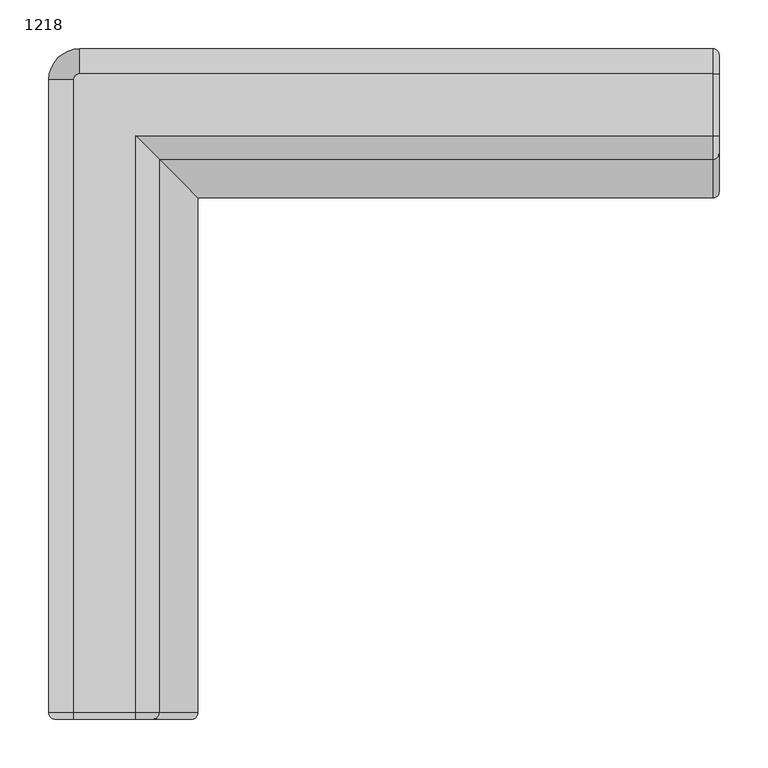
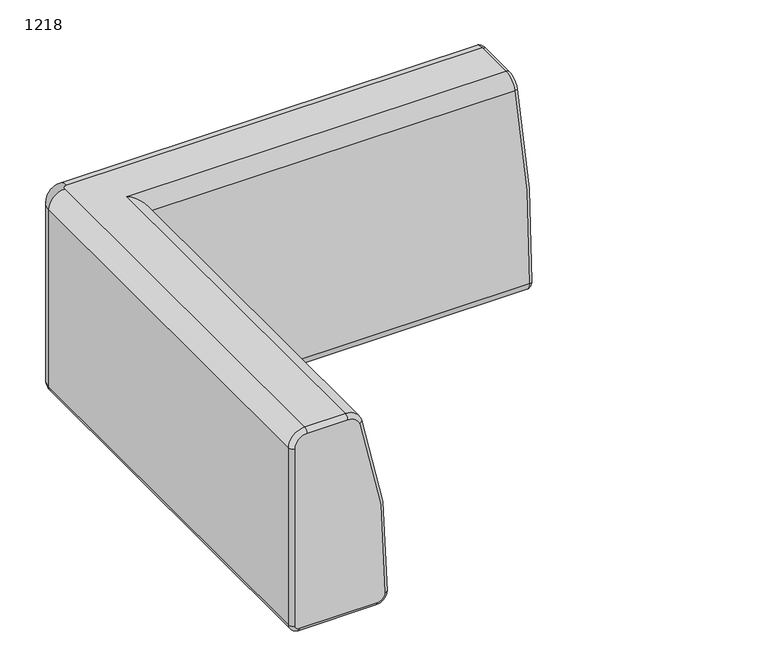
"""IFC4 building model written with IfcOpenShell, lengths in millimetres: furniture geometry, Laguna-Modular-Corner_Unit-ERG : 1218."""

from ifc_helpers import new_model, si_unit, point, frame, origin, place, context, project, spatial, circle_curve, ellipse_curve, trimmed, source, transform, mapped, element, save
from ifc_brep_helpers import plane_surface, cylinder_surface, revolved_surface, advanced_brep


def furniture_1218_6a8e717b(model_context):
    return source(origin(), model_context, "Body", "AdvancedBrep", [
        advanced_brep(
        [(-4516.651337, 548.3558502, 450.2858038), (-4555.9391458, 548.3558502, 742.4437381), (-4574.0706995, 548.3558502, 755.65), (-4637.3421763, 548.3558502, 755.65), (-4656.3921763, 548.3558502, 736.6), (-4656.3921763, 548.3558502, 444.5), (-4650.0421763, 548.3558502, 438.15), (-4529.3387986, 548.3558502, 438.15), (-4510.3076062, 554.7058502, 450.0037057), (-4549.8952947, 554.7058502, 744.3916508), (-4574.0706991, 554.7058502, 762.0), (-4637.3421763, 554.7058502, 762.0), (-4662.7421763, 554.7058502, 736.6), (-4662.7421763, 554.7058502, 444.5), (-4650.0421763, 554.7058502, 431.8), (-4529.3387986, 554.7058502, 431.8), (-4549.8952947, 1121.3089686, 744.3916508), (-4574.0706991, 1145.484373, 762.0), (-3983.2921763, 1145.484373, 762.0), (-3983.2921763, 1208.7558502, 762.0), (-4630.9921763, 1208.7558502, 762.0), (-4637.3421763, 1202.4058502, 762.0), (-4662.7421763, 1202.4058502, 736.6), (-4662.7421763, 1202.4058502, 444.5), (-4510.3076062, 1081.72128, 450.0037057), (-3983.2921763, 1121.3089686, 744.3916508), (-3983.2921763, 1234.1558502, 736.6), (-4630.9921763, 1234.1558502, 736.6), (-3983.2921763, 1234.1558502, 444.5000164), (-4630.9921763, 1234.1558502, 444.5), (-3983.2921763, 1081.72128, 450.0037057), (-4650.0421763, 1202.4058502, 431.8), (-3983.2921763, 1100.7524725, 431.8), (-4529.3387986, 1100.7524725, 431.8), (-4630.9921763, 1221.4558502, 431.8), (-3983.2921763, 1221.4558502, 431.8), (-3976.9421763, 1227.8058502, 736.6), (-3976.9421763, 1208.7558502, 755.65), (-3976.9421763, 1145.484373, 755.65), (-3976.9421763, 1127.3528197, 742.4437381), (-3976.9421763, 1088.0650109, 450.2858038), (-3976.9421763, 1100.7524725, 438.15), (-3976.9421763, 1221.4558502, 438.15), (-3976.9421763, 1227.8058502, 444.5)],
        [
            (0, 1, circle_curve(frame((-5347.7555119, 548.3558502, 487.2440105), z_axis=(0.0, -1.0, 0.0), x_axis=(0.999012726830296, 0.0, -0.044424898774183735)), 831.9255126)),
            (1, 2, circle_curve(frame((-4574.0706991, 548.3558502, 736.6), z_axis=(0.0, -1.0, 0.0), x_axis=(0.9517875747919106, 0.0, 0.30675790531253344)), 19.05)),
            (2, 3),
            (3, 4, circle_curve(frame((-4637.3421763, 548.3558502, 736.6), z_axis=(0.0, -1.0, 0.0), x_axis=(0.0, 0.0, 1.0)), 19.05)),
            (4, 5),
            (5, 6, circle_curve(frame((-4650.0421763, 548.3558502, 444.5), z_axis=(0.0, -1.0, 0.0), x_axis=(-1.0, 0.0, 0.0)), 6.35)),
            (6, 7),
            (7, 0, circle_curve(frame((-4529.3387986, 548.3558502, 450.85), z_axis=(0.0, -1.0, 0.0), x_axis=(0.0, 0.0, -1.0)), 12.7)),
            (0, 8, circle_curve(frame((-4516.651337, 554.7058502, 450.2858038), z_axis=(0.04442489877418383, 0.0, 0.999012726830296), x_axis=(-0.999012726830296, 0.0, 0.04442489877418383)), 6.35)),
            (8, 9, circle_curve(frame((-5347.7555119, 554.7058502, 487.2440105), z_axis=(0.0, -1.0, 0.0), x_axis=(0.999012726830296, 0.0, -0.044424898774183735)), 838.2755126)),
            (9, 1, circle_curve(frame((-4555.9391458, 554.7058502, 742.4437381), z_axis=(0.30675790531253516, 0.0, -0.9517875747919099), x_axis=(-0.9517875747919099, 0.0, -0.30675790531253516)), 6.35)),
            (9, 10, circle_curve(frame((-4574.0706991, 554.7058502, 736.6), z_axis=(0.0, -1.0, 0.0), x_axis=(0.9517875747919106, 0.0, 0.30675790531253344)), 25.4)),
            (10, 2, circle_curve(frame((-4574.0706991, 554.7058502, 755.65), z_axis=(1.0, 0.0, 0.0), x_axis=(0.0, 0.0, -1.0)), 6.35)),
            (10, 11),
            (11, 3, circle_curve(frame((-4637.3421763, 554.7058502, 755.65), z_axis=(1.0, 0.0, 0.0), x_axis=(0.0, 0.0, -1.0)), 6.35)),
            (11, 12, circle_curve(frame((-4637.3421763, 554.7058502, 736.6), z_axis=(0.0, -1.0, 0.0), x_axis=(0.0, 0.0, 1.0)), 25.4)),
            (12, 4, circle_curve(frame((-4656.3921763, 554.7058502, 736.6), z_axis=(0.0, 0.0, 1.0), x_axis=(1.0, 0.0, 0.0)), 6.35)),
            (12, 13),
            (13, 5, circle_curve(frame((-4656.3921763, 554.7058502, 444.5), z_axis=(0.0, 0.0, 1.0), x_axis=(1.0, 0.0, 0.0)), 6.35)),
            (13, 14, circle_curve(frame((-4650.0421763, 554.7058502, 444.5), z_axis=(0.0, -1.0, 0.0), x_axis=(-1.0, 0.0, 0.0)), 12.7)),
            (14, 6, circle_curve(frame((-4650.0421763, 554.7058502, 438.15), z_axis=(-1.0, 0.0, 0.0), x_axis=(0.0, 0.0, 1.0)), 6.35)),
            (14, 15),
            (15, 7, circle_curve(frame((-4529.3387986, 554.7058502, 438.15), z_axis=(-1.0, 0.0, 0.0), x_axis=(0.0, 0.0, 1.0)), 6.35)),
            (15, 8, circle_curve(frame((-4529.3387986, 554.7058502, 450.85), z_axis=(0.0, -1.0, 0.0), x_axis=(0.0, 0.0, -1.0)), 19.05)),
            (9, 16),
            (16, 17, ellipse_curve(frame((-4574.0706991, 1145.484373, 736.6), z_axis=(-0.7071067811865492, -0.7071067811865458, 0.0), x_axis=(0.7071067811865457, -0.7071067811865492, 0.0)), 35.9210245, 25.4)),
            (17, 10),
            (17, 18),
            (18, 19),
            (19, 20),
            (20, 21, circle_curve(frame((-4630.9921763, 1202.4058502, 762.0), z_axis=(0.0, 0.0, 1.0), x_axis=(-1.0, 0.0, 0.0)), 6.35)),
            (21, 11),
            (21, 22, circle_curve(frame((-4637.3421763, 1202.4058502, 736.6), z_axis=(0.0, -1.0, 0.0), x_axis=(-1.0, 0.0, 0.0)), 25.4)),
            (22, 12),
            (22, 23),
            (23, 13),
            (8, 24),
            (24, 16, ellipse_curve(frame((-5347.7555119, 1919.1691857, 487.2440105), z_axis=(-0.7071067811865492, -0.7071067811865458, 0.0), x_axis=(0.7071067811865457, -0.7071067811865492, 0.0)), 1185.5005989, 838.2755126)),
            (16, 25),
            (25, 18, circle_curve(frame((-3983.2921763, 1145.484373, 736.6), z_axis=(-1.0, 0.0, 0.0), x_axis=(0.0, 1.0, 0.0)), 25.4)),
            (19, 26, circle_curve(frame((-3983.2921763, 1208.7558502, 736.6), z_axis=(-1.0, 0.0, 0.0), x_axis=(0.0, 1.0, 0.0)), 25.4)),
            (26, 27),
            (27, 20, circle_curve(frame((-4630.9921763, 1208.7558502, 736.6), z_axis=(1.0, 0.0, 0.0), x_axis=(0.0, 1.0, 0.0)), 25.4)),
            (26, 28),
            (28, 29),
            (29, 27),
            (24, 30),
            (30, 25, circle_curve(frame((-3983.2921763, 1919.1691857, 487.2440105), z_axis=(-1.0, 0.0, 0.0), x_axis=(0.0, 1.0, 0.0)), 838.2755126)),
            (23, 31, circle_curve(frame((-4650.0421763, 1202.4058502, 444.5), z_axis=(0.0, -1.0, 0.0), x_axis=(-1.0, 0.0, 0.0)), 12.7)),
            (31, 14),
            (32, 33),
            (33, 15),
            (31, 34, circle_curve(frame((-4630.9921763, 1202.4058502, 431.8), z_axis=(0.0, 0.0, -1.0), x_axis=(-1.0, 0.0, 0.0)), 19.05)),
            (34, 35),
            (35, 32),
            (33, 24, ellipse_curve(frame((-4529.3387986, 1100.7524725, 450.85), z_axis=(-0.7071067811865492, -0.7071067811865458, 0.0), x_axis=(0.7071067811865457, -0.7071067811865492, 0.0)), 26.9407684, 19.05)),
            (28, 35, circle_curve(frame((-3983.2921763, 1221.4558502, 444.5), z_axis=(-1.0, 0.0, 0.0), x_axis=(0.0, 1.0, 0.0)), 12.7)),
            (34, 29, circle_curve(frame((-4630.9921763, 1221.4558502, 444.5), z_axis=(1.0, 0.0, 0.0), x_axis=(0.0, 1.0, 0.0)), 12.7)),
            (32, 30, circle_curve(frame((-3983.2921763, 1100.7524725, 450.85), z_axis=(-1.0, 0.0, 0.0), x_axis=(0.0, 1.0, 0.0)), 19.05)),
            (36, 26, circle_curve(frame((-3983.2921763, 1227.8058502, 736.6), z_axis=(0.0, 0.0, 1.0), x_axis=(0.0, -1.0, 0.0)), 6.35)),
            (19, 37, circle_curve(frame((-3983.2921763, 1208.7558502, 755.65), z_axis=(0.0, 1.0, 0.0), x_axis=(0.0, 0.0, -1.0)), 6.35)),
            (37, 36, circle_curve(frame((-3976.9421763, 1208.7558502, 736.6), z_axis=(-1.0, 0.0, 0.0), x_axis=(0.0, 1.0, 0.0)), 19.05)),
            (18, 38, circle_curve(frame((-3983.2921763, 1145.484373, 755.65), z_axis=(0.0, 1.0, 0.0), x_axis=(0.0, 0.0, -1.0)), 6.35)),
            (38, 37),
            (25, 39, circle_curve(frame((-3983.2921763, 1127.3528197, 742.4437381), z_axis=(0.0, 0.3067579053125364, 0.9517875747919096), x_axis=(0.0, 0.9517875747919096, -0.3067579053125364)), 6.35)),
            (39, 38, circle_curve(frame((-3976.9421763, 1145.484373, 736.6), z_axis=(-1.0, 0.0, 0.0), x_axis=(0.0, 0.0, 1.0)), 19.05)),
            (30, 40, circle_curve(frame((-3983.2921763, 1088.0650109, 450.2858038), z_axis=(0.0, -0.04442489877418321, 0.999012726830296), x_axis=(0.0, 0.999012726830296, 0.04442489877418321)), 6.35)),
            (40, 39, circle_curve(frame((-3976.9421763, 1919.1691857, 487.2440105), z_axis=(-1.0, 0.0, 0.0), x_axis=(0.0, -0.9517875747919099, 0.3067579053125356)), 831.9255126)),
            (32, 41, circle_curve(frame((-3983.2921763, 1100.7524725, 438.15), z_axis=(0.0, -1.0, 0.0), x_axis=(0.0, 0.0, 1.0)), 6.35)),
            (41, 40, circle_curve(frame((-3976.9421763, 1100.7524725, 450.85), z_axis=(-1.0, 0.0, 0.0), x_axis=(0.0, -0.9990127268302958, -0.0444248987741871)), 12.7)),
            (35, 42, circle_curve(frame((-3983.2921763, 1221.4558502, 438.15), z_axis=(0.0, -1.0, 0.0), x_axis=(0.0, 0.0, 1.0)), 6.35)),
            (42, 41),
            (28, 43, circle_curve(frame((-3983.2921763, 1227.8058502, 444.5), z_axis=(0.0, -1.285329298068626e-12, -1.0), x_axis=(0.0, -1.0, 1.285329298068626e-12)), 6.35)),
            (43, 42, circle_curve(frame((-3976.9421763, 1221.4558502, 444.5), z_axis=(-1.0, 0.0, 0.0), x_axis=(0.0, 0.0, -1.0)), 6.35)),
            (36, 43),
            (27, 22, circle_curve(frame((-4630.9921763, 1202.4058502, 736.6), z_axis=(0.0, 0.0, 1.0), x_axis=(-1.0, 0.0, 0.0)), 31.75)),
            (23, 29, circle_curve(frame((-4630.9921763, 1202.4058502, 444.5), z_axis=(0.0, 0.0, -1.0), x_axis=(-1.0, 0.0, 0.0)), 31.75)),
        ],
        [
            plane_surface(frame((-4637.3421763, 548.3558502, 755.65), z_axis=(0.0, -1.0, 0.0), x_axis=(-1.0, 0.0, 0.0))),
            revolved_surface(trimmed(ellipse_curve(frame((-4516.651337, 554.7058502, 450.2858038), z_axis=(-0.04442489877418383, 0.0, -0.999012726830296), x_axis=(-0.999012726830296, 0.0, 0.04442489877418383)), 6.35, 6.35), [point((-4510.3076062, 554.7058502, 450.0037057))], [point((-4516.651337, 548.3558502, 450.2858038))], True, "CARTESIAN"), (-5347.7555119, 554.7058502, 487.2440105), (0.0, -1.0, 0.0)),
            revolved_surface(trimmed(ellipse_curve(frame((-4555.9391458, 554.7058502, 742.4437381), z_axis=(0.30675790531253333, 0.0, -0.9517875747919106), x_axis=(-0.9517875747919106, 0.0, -0.30675790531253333)), 6.35, 6.35), [point((-4549.8952947, 554.7058502, 744.3916508))], [point((-4555.9391458, 548.3558502, 742.4437381))], True, "CARTESIAN"), (-4574.0706991, 554.7058502, 736.6), (0.0, -1.0, 0.0)),
            cylinder_surface(frame((-4574.0706991, 554.7058502, 755.65), z_axis=(1.0, 0.0, 0.0), x_axis=(0.0, 0.0, -1.0)), 6.35),
            revolved_surface(trimmed(ellipse_curve(frame((-4637.3421763, 554.7058502, 755.65), z_axis=(1.0, 0.0, 0.0), x_axis=(0.0, 0.0, -1.0)), 6.35, 6.35), [point((-4637.3421763, 554.7058502, 762.0))], [point((-4637.3421763, 548.3558502, 755.65))], True, "CARTESIAN"), (-4637.3421763, 554.7058502, 736.6), (0.0, -1.0, 0.0)),
            cylinder_surface(frame((-4656.3921763, 554.7058502, 736.6), z_axis=(0.0, 0.0, 1.0), x_axis=(1.0, 0.0, 0.0)), 6.35),
            revolved_surface(trimmed(ellipse_curve(frame((-4656.3921763, 554.7058502, 444.5), z_axis=(0.0, 0.0, 1.0), x_axis=(1.0, 0.0, 0.0)), 6.35, 6.35), [point((-4662.7421763, 554.7058502, 444.5))], [point((-4656.3921763, 548.3558502, 444.5))], True, "CARTESIAN"), (-4650.0421763, 554.7058502, 444.5), (0.0, -1.0, 0.0)),
            cylinder_surface(frame((-4650.0421763, 554.7058502, 438.15), z_axis=(-1.0, 0.0, 0.0), x_axis=(0.0, 0.0, 1.0)), 6.35),
            revolved_surface(trimmed(ellipse_curve(frame((-4529.3387986, 554.7058502, 438.15), z_axis=(-1.0, 0.0, 0.0), x_axis=(0.0, 0.0, 1.0)), 6.35, 6.35), [point((-4529.3387986, 554.7058502, 431.8))], [point((-4529.3387986, 548.3558502, 438.15))], True, "CARTESIAN"), (-4529.3387986, 554.7058502, 450.85), (0.0, -1.0, 0.0)),
            cylinder_surface(frame((-4574.0706991, 554.7058502, 736.6), z_axis=(0.0, -1.0, 0.0), x_axis=(-1.0, 0.0, 0.0)), 25.4),
            plane_surface(frame((-4574.0706991, 554.7058502, 762.0), z_axis=(0.0, 0.0, 1.0), x_axis=(0.0, 1.0, 0.0))),
            cylinder_surface(frame((-4637.3421763, 554.7058502, 736.6), z_axis=(0.0, -1.0, 0.0), x_axis=(-1.0, 0.0, 0.0)), 25.4),
            plane_surface(frame((-4662.7421763, 554.7058502, 736.6), z_axis=(-1.0, 0.0, 0.0), x_axis=(0.0, 1.0, 0.0))),
            cylinder_surface(frame((-5347.7555119, 554.7058502, 487.2440105), z_axis=(0.0, -1.0, 0.0), x_axis=(-1.0, 0.0, 0.0)), 838.2755126),
            cylinder_surface(frame((-4662.7421763, 1145.484373, 736.6), z_axis=(-1.0, 0.0, 0.0), x_axis=(0.0, 1.0, 0.0)), 25.4),
            cylinder_surface(frame((-4662.7421763, 1208.7558502, 736.6), z_axis=(-1.0, 0.0, 0.0), x_axis=(0.0, 1.0, 0.0)), 25.4),
            plane_surface(frame((-4662.7421763, 1234.1558502, 736.6), z_axis=(0.0, 1.0, 0.0), x_axis=(1.0, 0.0, 0.0))),
            cylinder_surface(frame((-4662.7421763, 1919.1691857, 487.2440105), z_axis=(-1.0, 0.0, 0.0), x_axis=(0.0, 1.0, 0.0)), 838.2755126),
            cylinder_surface(frame((-4650.0421763, 554.7058502, 444.5), z_axis=(0.0, -1.0, 0.0), x_axis=(-1.0, 0.0, 0.0)), 12.7),
            plane_surface(frame((-4650.0421763, 554.7058502, 431.8), z_axis=(0.0, 0.0, -1.0), x_axis=(0.0, 1.0, 0.0))),
            cylinder_surface(frame((-4529.3387986, 554.7058502, 450.85), z_axis=(0.0, -1.0, 0.0), x_axis=(-1.0, 0.0, 0.0)), 19.05),
            cylinder_surface(frame((-4662.7421763, 1221.4558502, 444.5), z_axis=(-1.0, 0.0, 0.0), x_axis=(0.0, 1.0, 0.0)), 12.7),
            cylinder_surface(frame((-4662.7421763, 1100.7524725, 450.85), z_axis=(-1.0, 0.0, 0.0), x_axis=(0.0, 1.0, 0.0)), 19.05),
            revolved_surface(trimmed(ellipse_curve(frame((-3983.2921763, 1227.8058502, 736.6), z_axis=(0.0, 0.0, -1.0), x_axis=(0.0, -1.0, 0.0)), 6.35, 6.35), [point((-3983.2921763, 1234.1558502, 736.6))], [point((-3976.9421763, 1227.8058502, 736.6))], True, "CARTESIAN"), (-3983.2921763, 1208.7558502, 736.6), (1.0, 0.0, 0.0)),
            cylinder_surface(frame((-3983.2921763, 1208.7558502, 755.65), z_axis=(0.0, 1.0, 0.0), x_axis=(0.0, 0.0, -1.0)), 6.35),
            revolved_surface(trimmed(ellipse_curve(frame((-3983.2921763, 1145.484373, 755.65), z_axis=(0.0, 1.0, 0.0), x_axis=(0.0, 0.0, -1.0)), 6.35, 6.35), [point((-3983.2921763, 1145.484373, 762.0))], [point((-3976.9421763, 1145.484373, 755.65))], True, "CARTESIAN"), (-3983.2921763, 1145.484373, 736.6), (1.0, 0.0, 0.0)),
            revolved_surface(trimmed(ellipse_curve(frame((-3983.2921763, 1127.3528197, 742.4437381), z_axis=(0.0, 0.3067579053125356, 0.9517875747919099), x_axis=(0.0, 0.9517875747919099, -0.3067579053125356)), 6.35, 6.35), [point((-3983.2921763, 1121.3089686, 744.3916508))], [point((-3976.9421763, 1127.3528197, 742.4437381))], True, "CARTESIAN"), (-3983.2921763, 1919.1691857, 487.2440105), (1.0, 0.0, 0.0)),
            revolved_surface(trimmed(ellipse_curve(frame((-3983.2921763, 1088.0650109, 450.2858038), z_axis=(0.0, -0.04442489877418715, 0.9990127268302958), x_axis=(0.0, 0.9990127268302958, 0.04442489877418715)), 6.35, 6.35), [point((-3983.2921763, 1081.72128, 450.0037057))], [point((-3976.9421763, 1088.0650109, 450.2858038))], True, "CARTESIAN"), (-3983.2921763, 1100.7524725, 450.85), (1.0, 0.0, 0.0)),
            cylinder_surface(frame((-3983.2921763, 1100.7524725, 438.15), z_axis=(0.0, -1.0, 0.0), x_axis=(0.0, 0.0, 1.0)), 6.35),
            revolved_surface(trimmed(ellipse_curve(frame((-3983.2921763, 1221.4558502, 438.15), z_axis=(0.0, -1.0, 0.0), x_axis=(0.0, 0.0, 1.0)), 6.35, 6.35), [point((-3983.2921763, 1221.4558502, 431.8))], [point((-3976.9421763, 1221.4558502, 438.15))], True, "CARTESIAN"), (-3983.2921763, 1221.4558502, 444.5), (1.0, 0.0, 0.0)),
            cylinder_surface(frame((-3983.2921763, 1227.8058502, 444.5), z_axis=(0.0, 0.0, -1.0), x_axis=(0.0, -1.0, 0.0)), 6.35),
            plane_surface(frame((-3976.9421763, 1100.7524725, 463.55), z_axis=(1.0, 0.0, 0.0), x_axis=(0.0, -1.0, 0.0))),
            revolved_surface(trimmed(ellipse_curve(frame((-4637.3421763, 1202.4058502, 736.6), z_axis=(0.0, -1.0, 0.0), x_axis=(-1.0, 0.0, 0.0)), 25.4, 25.4), [point((-4637.3421763, 1202.4058502, 762.0))], [point((-4662.7421763, 1202.4058502, 736.6))], True, "CARTESIAN"), (-4630.9921763, 1202.4058502, 0.0), (0.0, 0.0, -1.0)),
            revolved_surface(trimmed(ellipse_curve(frame((-4650.0421763, 1202.4058502, 444.5), z_axis=(0.0, -1.0, 0.0), x_axis=(-1.0, 0.0, 0.0)), 12.7, 12.7), [point((-4662.7421763, 1202.4058502, 444.5))], [point((-4650.0421763, 1202.4058502, 431.8))], True, "CARTESIAN"), (-4630.9921763, 1202.4058502, 0.0), (0.0, 0.0, -1.0)),
            cylinder_surface(frame((-4630.9921763, 1202.4058502, 0.0), z_axis=(0.0, 0.0, -1.0), x_axis=(-1.0, 0.0, 0.0)), 31.75),
        ],
        [
            (0, [[1, 2, 3, 4, 5, 6, 7, 8]]),
            (1, [[9, 10, 11, -1]]),
            (2, [[-11, 12, 13, -2]]),
            (3, [[-13, 14, 15, -3]]),
            (4, [[-15, 16, 17, -4]]),
            (5, [[-17, 18, 19, -5]]),
            (6, [[-19, 20, 21, -6]]),
            (7, [[-21, 22, 23, -7]]),
            (8, [[-9, -8, -23, 24]]),
            (9, [[25, 26, 27, -12]]),
            (10, [[-27, 28, 29, 30, 31, 32, -14]]),
            (11, [[-16, -32, 33, 34]]),
            (12, [[-18, -34, 35, 36]]),
            (13, [[-25, -10, 37, 38]]),
            (14, [[-26, 39, 40, -28]]),
            (15, [[41, 42, 43, -30]]),
            (16, [[44, 45, 46, -42]]),
            (17, [[-38, 47, 48, -39]]),
            (18, [[-20, -36, 49, 50]]),
            (19, [[51, 52, -22, -50, 53, 54, 55]]),
            (20, [[-37, -24, -52, 56]]),
            (21, [[57, -54, 58, -45]]),
            (22, [[-47, -56, -51, 59]]),
            (23, [[60, -41, 61, 62]]),
            (24, [[-61, -29, 63, 64]]),
            (25, [[-63, -40, 65, 66]]),
            (26, [[-65, -48, 67, 68]]),
            (27, [[-67, -59, 69, 70]]),
            (28, [[-69, -55, 71, 72]]),
            (29, [[-71, -57, 73, 74]]),
            (30, [[-60, 75, -73, -44]]),
            (31, [[-62, -64, -66, -68, -70, -72, -74, -75]]),
            (32, [[76, -33, -31, -43]]),
            (33, [[77, -58, -53, -49]]),
            (34, [[-76, -46, -77, -35]]),
        ],
    ),
    ])


if __name__ == "__main__":
    model = new_model("IFC4")
    model_context = context("Model", 3, world=origin())
    ifc_project = project(units=[si_unit("LENGTHUNIT", "METRE", prefix="MILLI")], contexts=[model_context])
    site = spatial("IfcSite", under=ifc_project)
    building = spatial("IfcBuilding", under=site)
    placement = place(None, origin())
    furniture_1218_shape = furniture_1218_6a8e717b(model_context)
    element("IfcFurniture", 1, ObjectType="Laguna-Modular-Corner_Unit-ERG : 1218", at=placement, inside=building, context=model_context, shape_type="MappedRepresentation", body=[
        mapped(furniture_1218_shape, transform((0.0, 0.0, 0.0), x_axis=(1.0, 0.0, 0.0), y_axis=(0.0, 1.0, 0.0), z_axis=(0.0, 0.0, 1.0))),
    ])
    save(model, "model.ifc")
